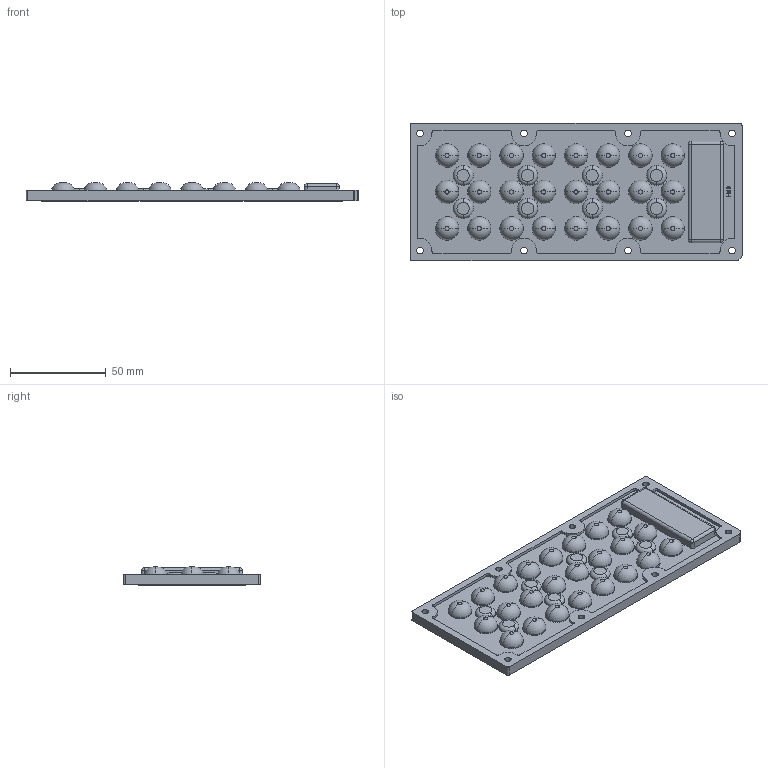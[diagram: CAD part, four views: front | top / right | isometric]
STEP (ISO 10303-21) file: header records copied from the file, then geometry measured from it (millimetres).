
FILE_DESCRIPTION(('Creo Elements/Direct Modeling STEP Export'),'2;1');
FILE_NAME('95810.stp','2025-09-16T 8:39:52',(''),(''),'Creo Elements/Direct Modeling STEP processor for AP214 (Solid Model)','Creo Elements/Direct Modeling 20.8 17-May-2025 (C) Parametric Technology GmbH','');
FILE_SCHEMA(('AUTOMOTIVE_DESIGN { 1 0 10303 214 1 1 1 1 }'));
Length unit declared in the file: millimetre
Products named in the file (2): 95810
Assembly tree (1 placements, depth 2):
  95810
    95810
Bounding box: 173 x 71.4 x 9.73 mm (x, y, z)
Volume: 47821.9 mm3; surface area: 38626.8 mm2
Topology: 1 solids, 1 shells, 1023 faces, 2579 edges, 1626 vertices
Faces by surface type: plane 386, cylinder 277, cone 196, torus 112, revolution 48, sphere 4
Entity records: 34759 total; most frequent: CARTESIAN_POINT 8997, ORIENTED_EDGE 5054, DIRECTION 4805, EDGE_CURVE 2527, AXIS2_PLACEMENT_3D 1754, VERTEX_POINT 1626, VECTOR 1249, LINE 1249
